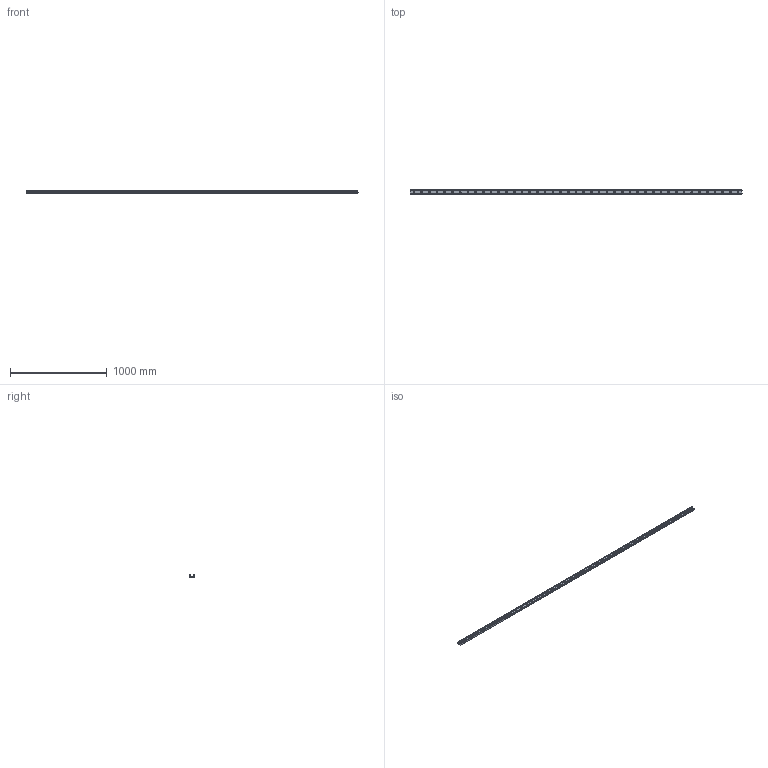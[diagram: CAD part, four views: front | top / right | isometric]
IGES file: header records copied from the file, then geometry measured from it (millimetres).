
Start section: SolidWorks IGES file using analytic representation for surfaces
Global section: file name: C:\Users\IanO\Desktop\43\L1943.ULV43_v2_20180121_IGES\L1943.ULV43-3440.igs; native system: SolidWorks 2017; preprocessor: SolidWorks 2017; author: IanO; date: 190121.090552; units: millimetre
Bounding box: 3440 x 43 x 21 mm (x, y, z)
Surface area: 533641 mm2 (no closed solid volume)
Topology: 0 solids, 0 shells, 198 faces, 3734 edges, 3734 vertices
Faces by surface type: revolution 185, bspline 13
